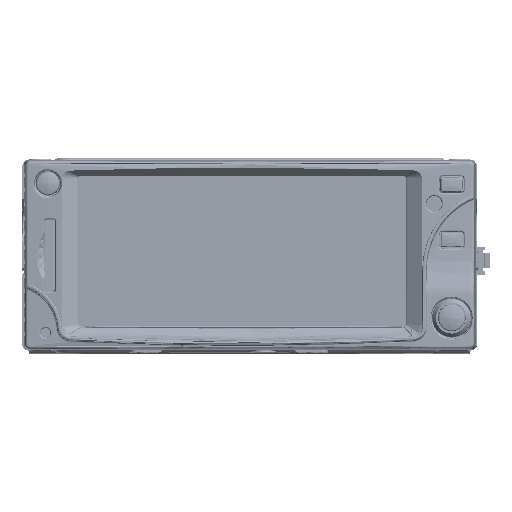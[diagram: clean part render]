
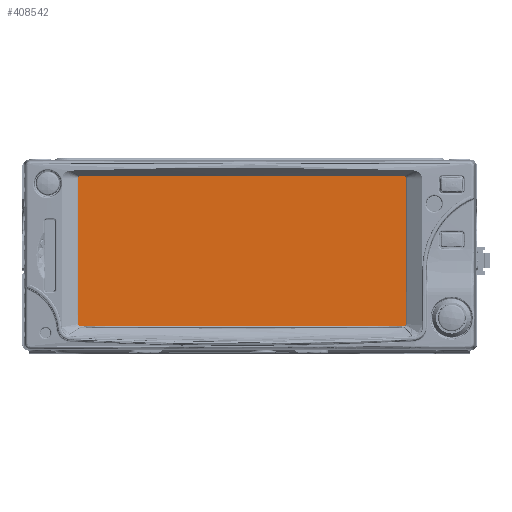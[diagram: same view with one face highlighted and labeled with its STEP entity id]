
A CAD part, top view. The second image highlights one B-rep face of the part: STEP entity #408542.
In plain terms, the highlighted planar face has unit normal (0, 0, 1).
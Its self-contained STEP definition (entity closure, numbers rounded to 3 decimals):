
#16655 = AXIS2_PLACEMENT_3D ( 'NONE', #66625, #66629, #66632 ) ;
#16674 = AXIS2_PLACEMENT_3D ( 'NONE', #66585, #66589, #66592 ) ;
#16684 = AXIS2_PLACEMENT_3D ( 'NONE', #66619, #66670, #66673 ) ;
#16687 = AXIS2_PLACEMENT_3D ( 'NONE', #66707, #66711, #66712 ) ;
#24321 = LINE ( 'NONE', #53539, #24337 ) ;
#24337 = VECTOR ( 'NONE', #32729, 1000. ) ;
#24353 = VECTOR ( 'NONE', #66500, 1000. ) ;
#24367 = LINE ( 'NONE', #66497, #24353 ) ;
#24412 = CIRCLE ( 'NONE', #16674, 0.525 ) ;
#24452 = CIRCLE ( 'NONE', #16655, 0.525 ) ;
#24492 = CIRCLE ( 'NONE', #16684, 0.525 ) ;
#24527 = LINE ( 'NONE', #66699, #24561 ) ;
#24531 = CIRCLE ( 'NONE', #16687, 0.525 ) ;
#24548 = LINE ( 'NONE', #66736, #24551 ) ;
#24551 = VECTOR ( 'NONE', #66739, 1000. ) ;
#24561 = VECTOR ( 'NONE', #66750, 1000. ) ;
#32729 = DIRECTION ( 'NONE',  ( 1., 0., 0. ) ) ;
#53539 = CARTESIAN_POINT ( 'NONE',  ( -60.249, 61.078, 14.453 ) ) ;
#66497 = CARTESIAN_POINT ( 'NONE',  ( 54.906, 61.062, 14.453 ) ) ;
#66500 = DIRECTION ( 'NONE',  ( 0., -1., 0. ) ) ;
#66585 = CARTESIAN_POINT ( 'NONE',  ( -59.741, 60.554, 14.453 ) ) ;
#66589 = DIRECTION ( 'NONE',  ( 0., 0., 1. ) ) ;
#66592 = DIRECTION ( 'NONE',  ( -1., 0., 0. ) ) ;
#66619 = CARTESIAN_POINT ( 'NONE',  ( 54.381, 9.169, 14.453 ) ) ;
#66625 = CARTESIAN_POINT ( 'NONE',  ( 54.381, 60.554, 14.453 ) ) ;
#66629 = DIRECTION ( 'NONE',  ( 0., 0., 1. ) ) ;
#66632 = DIRECTION ( 'NONE',  ( -1., 0., 0. ) ) ;
#66670 = DIRECTION ( 'NONE',  ( 0., 0., 1. ) ) ;
#66673 = DIRECTION ( 'NONE',  ( -1., 0., 0. ) ) ;
#66699 = CARTESIAN_POINT ( 'NONE',  ( -60.266, 61.062, 14.453 ) ) ;
#66707 = CARTESIAN_POINT ( 'NONE',  ( -59.741, 9.169, 14.453 ) ) ;
#66711 = DIRECTION ( 'NONE',  ( 0., 0., 1. ) ) ;
#66712 = DIRECTION ( 'NONE',  ( -1., 0., 0. ) ) ;
#66736 = CARTESIAN_POINT ( 'NONE',  ( -60.249, 8.645, 14.453 ) ) ;
#66739 = DIRECTION ( 'NONE',  ( -1., 0., 0. ) ) ;
#66750 = DIRECTION ( 'NONE',  ( 0., 1., 0. ) ) ;
#187660 = EDGE_LOOP ( 'NONE', ( #470086, #470090, #470096, #470099, #470104, #470108, #470111, #470115 ) ) ;
#190397 = CARTESIAN_POINT ( 'NONE',  ( -59.741, 61.078, 14.453 ) ) ;
#190409 = CARTESIAN_POINT ( 'NONE',  ( -60.266, 60.554, 14.453 ) ) ;
#190425 = CARTESIAN_POINT ( 'NONE',  ( 54.381, 61.078, 14.453 ) ) ;
#190427 = CARTESIAN_POINT ( 'NONE',  ( 54.381, 8.645, 14.453 ) ) ;
#190430 = CARTESIAN_POINT ( 'NONE',  ( 54.906, 60.554, 14.453 ) ) ;
#190463 = CARTESIAN_POINT ( 'NONE',  ( 54.906, 9.169, 14.453 ) ) ;
#190487 = CARTESIAN_POINT ( 'NONE',  ( -60.266, 9.169, 14.453 ) ) ;
#190492 = CARTESIAN_POINT ( 'NONE',  ( -59.741, 8.645, 14.453 ) ) ;
#292725 = FACE_OUTER_BOUND ( 'NONE', #187660, .T. ) ;
#354397 = AXIS2_PLACEMENT_3D ( 'NONE', #395855, #395873, #395880 ) ;
#395820 = PLANE ( 'NONE',  #354397 ) ;
#395855 = CARTESIAN_POINT ( 'NONE',  ( -72.598, 17.018, 14.453 ) ) ;
#395873 = DIRECTION ( 'NONE',  ( 0., 0., -1. ) ) ;
#395880 = DIRECTION ( 'NONE',  ( -1., 0., 0. ) ) ;
#408542 = ADVANCED_FACE ( 'NONE', ( #292725 ), #395820, .F. ) ;
#420950 = EDGE_CURVE ( 'NONE', #428049, #428068, #24321, .T. ) ;
#420967 = EDGE_CURVE ( 'NONE', #428065, #428081, #24367, .T. ) ;
#420975 = EDGE_CURVE ( 'NONE', #428049, #428054, #24412, .T. ) ;
#420988 = EDGE_CURVE ( 'NONE', #428065, #428068, #24452, .T. ) ;
#421000 = EDGE_CURVE ( 'NONE', #428076, #428081, #24492, .T. ) ;
#421012 = EDGE_CURVE ( 'NONE', #428101, #428106, #24531, .T. ) ;
#421019 = EDGE_CURVE ( 'NONE', #428076, #428106, #24548, .T. ) ;
#421023 = EDGE_CURVE ( 'NONE', #428101, #428054, #24527, .T. ) ;
#428049 = VERTEX_POINT ( 'NONE', #190397 ) ;
#428054 = VERTEX_POINT ( 'NONE', #190409 ) ;
#428065 = VERTEX_POINT ( 'NONE', #190430 ) ;
#428068 = VERTEX_POINT ( 'NONE', #190425 ) ;
#428076 = VERTEX_POINT ( 'NONE', #190427 ) ;
#428081 = VERTEX_POINT ( 'NONE', #190463 ) ;
#428101 = VERTEX_POINT ( 'NONE', #190487 ) ;
#428106 = VERTEX_POINT ( 'NONE', #190492 ) ;
#470086 = ORIENTED_EDGE ( 'NONE', *, *, #421019, .F. ) ;
#470090 = ORIENTED_EDGE ( 'NONE', *, *, #421000, .T. ) ;
#470096 = ORIENTED_EDGE ( 'NONE', *, *, #420967, .F. ) ;
#470099 = ORIENTED_EDGE ( 'NONE', *, *, #420988, .T. ) ;
#470104 = ORIENTED_EDGE ( 'NONE', *, *, #420950, .F. ) ;
#470108 = ORIENTED_EDGE ( 'NONE', *, *, #420975, .T. ) ;
#470111 = ORIENTED_EDGE ( 'NONE', *, *, #421023, .F. ) ;
#470115 = ORIENTED_EDGE ( 'NONE', *, *, #421012, .T. ) ;
